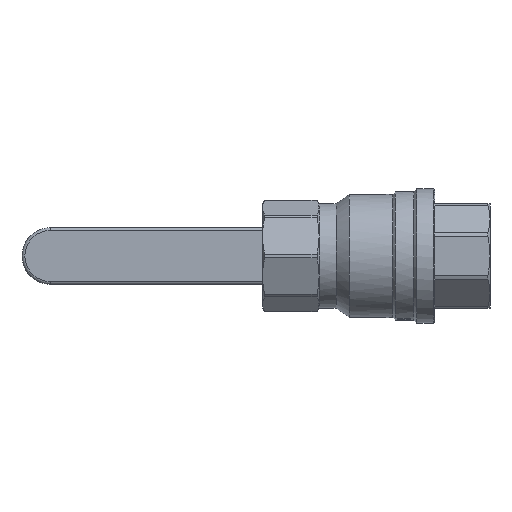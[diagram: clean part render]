
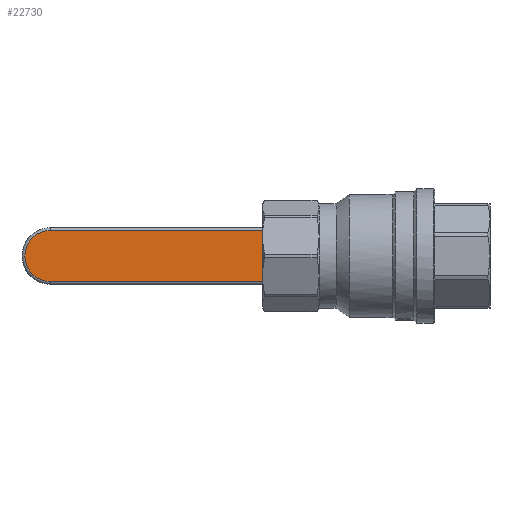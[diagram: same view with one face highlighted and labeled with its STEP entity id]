
A CAD part, front view. The second image highlights one B-rep face of the part: STEP entity #22730.
In plain terms, the highlighted planar face has unit normal (0, -1, 0).
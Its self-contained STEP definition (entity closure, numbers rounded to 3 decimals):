
#22662=CARTESIAN_POINT('',(-39.283,57.7,-9.0));
#22663=VERTEX_POINT('',#22662);
#22664=CARTESIAN_POINT('',(-39.283,57.7,9.0));
#22665=VERTEX_POINT('',#22664);
#22666=CARTESIAN_POINT('',(-39.283,57.7,-9.0));
#22667=DIRECTION('',(0.0,0.0,1.0));
#22668=VECTOR('',#22667,18.0);
#22669=LINE('',#22666,#22668);
#22670=EDGE_CURVE('',#22663,#22665,#22669,.T.);
#22699=CARTESIAN_POINT('',(-35.643,57.7,-23.5));
#22700=DIRECTION('',(0.0,1.0,0.0));
#22701=DIRECTION('',(0.0,0.0,-1.0));
#22702=AXIS2_PLACEMENT_3D('',#22699,#22700,#22701);
#22703=PLANE('',#22702);
#22704=ORIENTED_EDGE('',*,*,#22670,.T.);
#22705=CARTESIAN_POINT('',(-115.0,57.7,9.0));
#22706=VERTEX_POINT('',#22705);
#22707=CARTESIAN_POINT('',(-39.283,57.7,9.0));
#22708=DIRECTION('',(-1.0,0.0,0.0));
#22709=VECTOR('',#22708,75.717);
#22710=LINE('',#22707,#22709);
#22711=EDGE_CURVE('',#22665,#22706,#22710,.T.);
#22712=ORIENTED_EDGE('',*,*,#22711,.T.);
#22713=CARTESIAN_POINT('',(-115.0,57.7,-9.0));
#22714=VERTEX_POINT('',#22713);
#22715=CARTESIAN_POINT('',(-115.0,57.7,0.));
#22716=DIRECTION('',(0.0,-1.0,0.0));
#22717=DIRECTION('',(0.0,0.0,1.0));
#22718=AXIS2_PLACEMENT_3D('',#22715,#22716,#22717);
#22719=CIRCLE('',#22718,9.0);
#22720=EDGE_CURVE('',#22706,#22714,#22719,.T.);
#22721=ORIENTED_EDGE('',*,*,#22720,.T.);
#22722=CARTESIAN_POINT('',(-115.0,57.7,-9.0));
#22723=DIRECTION('',(1.0,0.0,0.0));
#22724=VECTOR('',#22723,75.717);
#22725=LINE('',#22722,#22724);
#22726=EDGE_CURVE('',#22714,#22663,#22725,.T.);
#22727=ORIENTED_EDGE('',*,*,#22726,.T.);
#22728=EDGE_LOOP('',(#22704,#22712,#22721,#22727));
#22729=FACE_OUTER_BOUND('',#22728,.T.);
#22730=ADVANCED_FACE('',(#22729),#22703,.F.);
